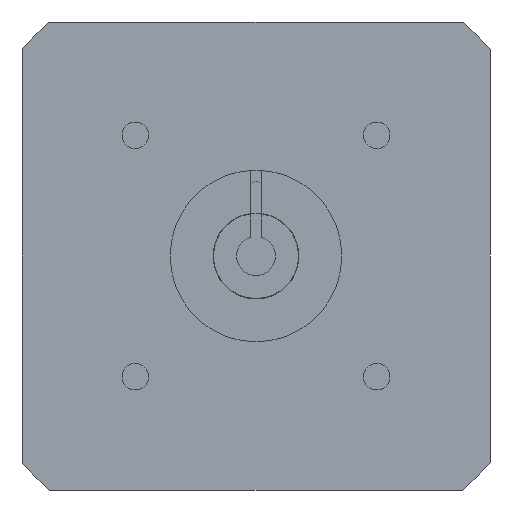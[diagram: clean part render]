
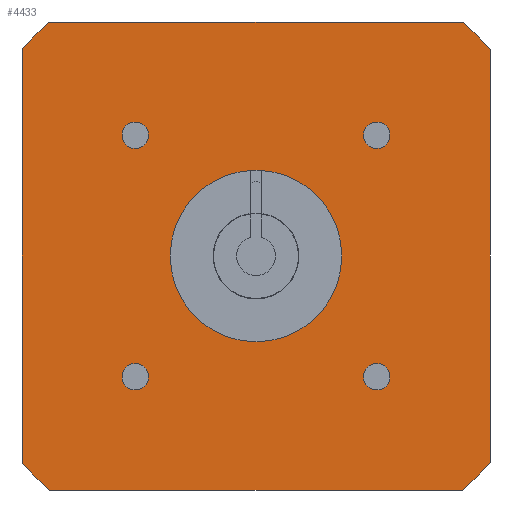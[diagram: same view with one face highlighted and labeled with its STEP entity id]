
A CAD part, left-side view. The second image highlights one B-rep face of the part: STEP entity #4433.
In plain terms, the highlighted planar face has unit normal (-1, 0, 0).
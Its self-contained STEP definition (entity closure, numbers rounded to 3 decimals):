
#708=CARTESIAN_POINT('',(-120.5,0.,0.));
#709=DIRECTION('',(-1.,0.,0.));
#710=DIRECTION('',(0.,0.75,-0.661));
#711=AXIS2_PLACEMENT_3D('',#708,#709,#710);
#713=DIRECTION('',(0.,0.,-1.));
#714=VECTOR('',#713,52.915);
#715=CARTESIAN_POINT('',(-120.5,30.,26.458));
#716=LINE('',#715,#714);
#717=CARTESIAN_POINT('',(-120.5,0.,0.));
#718=DIRECTION('',(-1.,0.,0.));
#719=DIRECTION('',(0.,0.661,0.75));
#720=AXIS2_PLACEMENT_3D('',#717,#718,#719);
#722=DIRECTION('',(0.,1.,0.));
#723=VECTOR('',#722,52.915);
#724=CARTESIAN_POINT('',(-120.5,-26.458,30.));
#725=LINE('',#724,#723);
#726=CARTESIAN_POINT('',(-120.5,0.,0.));
#727=DIRECTION('',(-1.,0.,0.));
#728=DIRECTION('',(0.,-0.75,0.661));
#729=AXIS2_PLACEMENT_3D('',#726,#727,#728);
#731=DIRECTION('',(0.,0.,1.));
#732=VECTOR('',#731,52.915);
#733=CARTESIAN_POINT('',(-120.5,-30.,-26.458));
#734=LINE('',#733,#732);
#735=CARTESIAN_POINT('',(-120.5,0.,0.));
#736=DIRECTION('',(-1.,0.,0.));
#737=DIRECTION('',(0.,-0.661,-0.75));
#738=AXIS2_PLACEMENT_3D('',#735,#736,#737);
#740=DIRECTION('',(0.,-1.,0.));
#741=VECTOR('',#740,52.915);
#742=CARTESIAN_POINT('',(-120.5,26.458,-30.));
#743=LINE('',#742,#741);
#744=CARTESIAN_POINT('',(-120.5,-15.486,-15.486));
#745=DIRECTION('',(1.,0.,0.));
#746=DIRECTION('',(0.,-0.707,-0.707));
#747=AXIS2_PLACEMENT_3D('',#744,#745,#746);
#749=CARTESIAN_POINT('',(-120.5,-15.486,-15.486));
#750=DIRECTION('',(1.,0.,0.));
#751=DIRECTION('',(0.,0.707,0.707));
#752=AXIS2_PLACEMENT_3D('',#749,#750,#751);
#754=CARTESIAN_POINT('',(-120.5,-15.486,15.486));
#755=DIRECTION('',(1.,0.,0.));
#756=DIRECTION('',(0.,-0.707,0.707));
#757=AXIS2_PLACEMENT_3D('',#754,#755,#756);
#759=CARTESIAN_POINT('',(-120.5,-15.486,15.486));
#760=DIRECTION('',(1.,0.,0.));
#761=DIRECTION('',(0.,0.707,-0.707));
#762=AXIS2_PLACEMENT_3D('',#759,#760,#761);
#764=CARTESIAN_POINT('',(-120.5,15.486,15.486));
#765=DIRECTION('',(1.,0.,0.));
#766=DIRECTION('',(0.,0.707,0.707));
#767=AXIS2_PLACEMENT_3D('',#764,#765,#766);
#769=CARTESIAN_POINT('',(-120.5,15.486,15.486));
#770=DIRECTION('',(1.,0.,0.));
#771=DIRECTION('',(0.,-0.707,-0.707));
#772=AXIS2_PLACEMENT_3D('',#769,#770,#771);
#774=CARTESIAN_POINT('',(-120.5,15.486,-15.486));
#775=DIRECTION('',(1.,0.,0.));
#776=DIRECTION('',(0.,0.707,-0.707));
#777=AXIS2_PLACEMENT_3D('',#774,#775,#776);
#779=CARTESIAN_POINT('',(-120.5,15.486,-15.486));
#780=DIRECTION('',(1.,0.,0.));
#781=DIRECTION('',(0.,-0.707,0.707));
#782=AXIS2_PLACEMENT_3D('',#779,#780,#781);
#784=CARTESIAN_POINT('',(-120.5,0.,0.));
#785=DIRECTION('',(1.,0.,0.));
#786=DIRECTION('',(0.,0.,-1.));
#787=AXIS2_PLACEMENT_3D('',#784,#785,#786);
#797=CARTESIAN_POINT('',(-120.5,0.,0.));
#798=DIRECTION('',(-1.,0.,0.));
#799=DIRECTION('',(0.,0.,-1.));
#800=AXIS2_PLACEMENT_3D('',#797,#798,#799);
#3128=CARTESIAN_POINT('',(-120.5,0.,-11.));
#3130=VERTEX_POINT('',#3128);
#3136=CARTESIAN_POINT('',(-120.5,0.,11.));
#3138=VERTEX_POINT('',#3136);
#3144=CARTESIAN_POINT('',(-120.5,30.,-26.458));
#3145=CARTESIAN_POINT('',(-120.5,26.458,-30.));
#3146=VERTEX_POINT('',#3144);
#3147=VERTEX_POINT('',#3145);
#3148=CARTESIAN_POINT('',(-120.5,-26.458,-30.));
#3149=VERTEX_POINT('',#3148);
#3150=CARTESIAN_POINT('',(-120.5,-30.,-26.458));
#3151=VERTEX_POINT('',#3150);
#3152=CARTESIAN_POINT('',(-120.5,-30.,26.458));
#3153=VERTEX_POINT('',#3152);
#3154=CARTESIAN_POINT('',(-120.5,-26.458,30.));
#3155=VERTEX_POINT('',#3154);
#3156=CARTESIAN_POINT('',(-120.5,26.458,30.));
#3157=VERTEX_POINT('',#3156);
#3158=CARTESIAN_POINT('',(-120.5,30.,26.458));
#3159=VERTEX_POINT('',#3158);
#3172=CARTESIAN_POINT('',(-120.5,-16.688,-16.688));
#3173=CARTESIAN_POINT('',(-120.5,-14.284,-14.284));
#3174=VERTEX_POINT('',#3172);
#3175=VERTEX_POINT('',#3173);
#3188=CARTESIAN_POINT('',(-120.5,-16.688,16.688));
#3189=CARTESIAN_POINT('',(-120.5,-14.284,14.284));
#3190=VERTEX_POINT('',#3188);
#3191=VERTEX_POINT('',#3189);
#3204=CARTESIAN_POINT('',(-120.5,16.688,16.688));
#3205=CARTESIAN_POINT('',(-120.5,14.284,14.284));
#3206=VERTEX_POINT('',#3204);
#3207=VERTEX_POINT('',#3205);
#3220=CARTESIAN_POINT('',(-120.5,16.688,-16.688));
#3221=CARTESIAN_POINT('',(-120.5,14.284,-14.284));
#3222=VERTEX_POINT('',#3220);
#3223=VERTEX_POINT('',#3221);
#4388=CARTESIAN_POINT('',(-120.5,0.,0.));
#4389=DIRECTION('',(1.,0.,0.));
#4390=DIRECTION('',(0.,0.,1.));
#4391=AXIS2_PLACEMENT_3D('',#4388,#4389,#4390);
#4392=PLANE('',#4391);
#4393=ORIENTED_EDGE('',*,*,#4126,.F.);
#4394=ORIENTED_EDGE('',*,*,#4142,.F.);
#4395=ORIENTED_EDGE('',*,*,#4366,.F.);
#4396=ORIENTED_EDGE('',*,*,#4380,.F.);
#4397=ORIENTED_EDGE('',*,*,#4069,.F.);
#4398=ORIENTED_EDGE('',*,*,#4084,.F.);
#4399=ORIENTED_EDGE('',*,*,#4098,.F.);
#4400=ORIENTED_EDGE('',*,*,#4112,.F.);
#4401=EDGE_LOOP('',(#4393,#4394,#4395,#4396,#4397,#4398,#4399,#4400));
#4402=FACE_OUTER_BOUND('',#4401,.F.);
#4404=ORIENTED_EDGE('',*,*,#4403,.F.);
#4406=ORIENTED_EDGE('',*,*,#4405,.T.);
#4407=EDGE_LOOP('',(#4404,#4406));
#4408=FACE_BOUND('',#4407,.F.);
#4410=ORIENTED_EDGE('',*,*,#4409,.F.);
#4412=ORIENTED_EDGE('',*,*,#4411,.F.);
#4413=EDGE_LOOP('',(#4410,#4412));
#4414=FACE_BOUND('',#4413,.F.);
#4416=ORIENTED_EDGE('',*,*,#4415,.F.);
#4418=ORIENTED_EDGE('',*,*,#4417,.F.);
#4419=EDGE_LOOP('',(#4416,#4418));
#4420=FACE_BOUND('',#4419,.F.);
#4422=ORIENTED_EDGE('',*,*,#4421,.F.);
#4424=ORIENTED_EDGE('',*,*,#4423,.F.);
#4425=EDGE_LOOP('',(#4422,#4424));
#4426=FACE_BOUND('',#4425,.F.);
#4428=ORIENTED_EDGE('',*,*,#4427,.F.);
#4430=ORIENTED_EDGE('',*,*,#4429,.F.);
#4431=EDGE_LOOP('',(#4428,#4430));
#4432=FACE_BOUND('',#4431,.F.);
#4433=ADVANCED_FACE('',(#4402,#4408,#4414,#4420,#4426,#4432),#4392,.F.);
#712=CIRCLE('',#711,40.);
#721=CIRCLE('',#720,40.);
#730=CIRCLE('',#729,40.);
#739=CIRCLE('',#738,40.);
#748=CIRCLE('',#747,1.7);
#753=CIRCLE('',#752,1.7);
#758=CIRCLE('',#757,1.7);
#763=CIRCLE('',#762,1.7);
#768=CIRCLE('',#767,1.7);
#773=CIRCLE('',#772,1.7);
#778=CIRCLE('',#777,1.7);
#783=CIRCLE('',#782,1.7);
#788=CIRCLE('',#787,11.);
#801=CIRCLE('',#800,11.);
#4069=EDGE_CURVE('',#3153,#3155,#730,.T.);
#4084=EDGE_CURVE('',#3151,#3153,#734,.T.);
#4098=EDGE_CURVE('',#3149,#3151,#739,.T.);
#4112=EDGE_CURVE('',#3147,#3149,#743,.T.);
#4126=EDGE_CURVE('',#3146,#3147,#712,.T.);
#4142=EDGE_CURVE('',#3159,#3146,#716,.T.);
#4366=EDGE_CURVE('',#3157,#3159,#721,.T.);
#4380=EDGE_CURVE('',#3155,#3157,#725,.T.);
#4403=EDGE_CURVE('',#3130,#3138,#788,.T.);
#4405=EDGE_CURVE('',#3130,#3138,#801,.T.);
#4409=EDGE_CURVE('',#3174,#3175,#748,.T.);
#4411=EDGE_CURVE('',#3175,#3174,#753,.T.);
#4415=EDGE_CURVE('',#3190,#3191,#758,.T.);
#4417=EDGE_CURVE('',#3191,#3190,#763,.T.);
#4421=EDGE_CURVE('',#3206,#3207,#768,.T.);
#4423=EDGE_CURVE('',#3207,#3206,#773,.T.);
#4427=EDGE_CURVE('',#3222,#3223,#778,.T.);
#4429=EDGE_CURVE('',#3223,#3222,#783,.T.);
